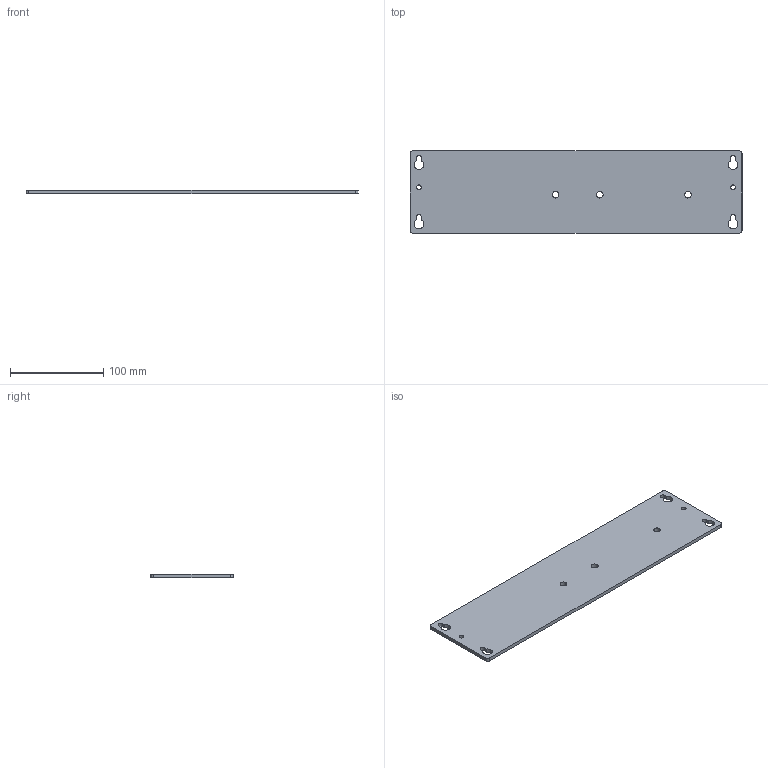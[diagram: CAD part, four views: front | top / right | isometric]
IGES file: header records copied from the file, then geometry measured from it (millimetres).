
Start section:  PTC IGES file: cu_panelmount_crio-906x_8sl.igs
Global section: file name: cu_panelmount_crio-906x_8sl.igs; native system: Creo Parametric by Parametric Technology Corporation; preprocessor: 2014000; author: jbuhisan; organization: Unknown; date: 20151209.122916; units: inch
Bounding box: 355.55 x 88.14 x 4 mm (x, y, z)
Surface area: 66078.4 mm2 (no closed solid volume)
Topology: 0 solids, 0 shells, 36 faces, 204 edges, 204 vertices
Faces by surface type: revolution 22, bspline 14
